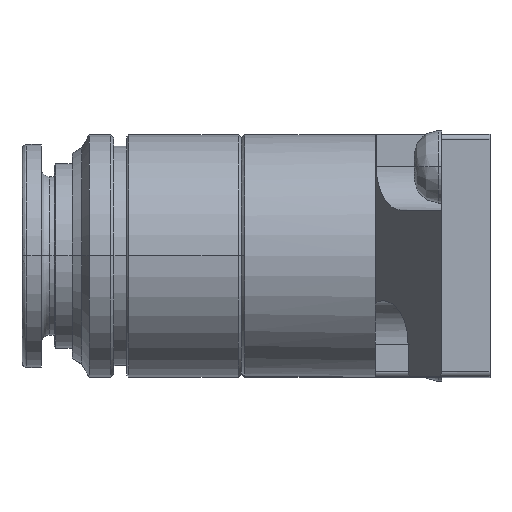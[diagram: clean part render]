
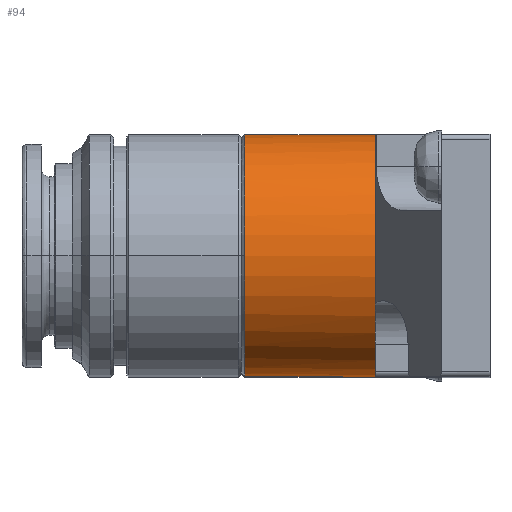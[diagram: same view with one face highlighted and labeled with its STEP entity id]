
A CAD part, top view. The second image highlights one B-rep face of the part: STEP entity #94.
In plain terms, the highlighted cylindrical face has radius 7.5 mm (diameter 15 mm), a partial arc.
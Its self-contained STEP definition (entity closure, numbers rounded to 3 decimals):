
#94=ADVANCED_FACE('',(#729),#728,.T.);
#728=CYLINDRICAL_SURFACE('',#1875,7.5);
#729=FACE_OUTER_BOUND('',#1876,.T.);
#1872=CARTESIAN_POINT('',(0.,-7.5,30.55));
#1873=DIRECTION('',(1.,0.,0.));
#1874=DIRECTION('',(0.,0.,-1.));
#1875=AXIS2_PLACEMENT_3D('',#1872,#1873,#1874);
#1876=EDGE_LOOP('',(#3010,#3011,#3012,#3013,#3014,#3015,#3016));
#3010=ORIENTED_EDGE('',*,*,#3505,.F.);
#3011=ORIENTED_EDGE('',*,*,#3471,.T.);
#3012=ORIENTED_EDGE('',*,*,#3477,.T.);
#3013=ORIENTED_EDGE('',*,*,#3475,.T.);
#3014=ORIENTED_EDGE('',*,*,#3494,.F.);
#3015=ORIENTED_EDGE('',*,*,#3535,.F.);
#3016=ORIENTED_EDGE('',*,*,#3536,.F.);
#3471=EDGE_CURVE('',#4370,#4135,#4398,.T.);
#3475=EDGE_CURVE('',#4319,#4419,#4426,.T.);
#3477=EDGE_CURVE('',#4135,#4319,#4438,.T.);
#3494=EDGE_CURVE('',#4549,#4419,#4556,.T.);
#3505=EDGE_CURVE('',#4370,#4627,#4628,.T.);
#3535=EDGE_CURVE('',#4834,#4549,#4835,.T.);
#3536=EDGE_CURVE('',#4627,#4834,#4841,.T.);
#4135=VERTEX_POINT('',#6057);
#4319=VERTEX_POINT('',#6164);
#4370=VERTEX_POINT('',#6194);
#4398=CIRCLE('',#6216,7.5);
#4419=VERTEX_POINT('',#6227);
#4426=CIRCLE('',#6235,7.5);
#4438=CIRCLE('',#6243,7.5);
#4549=VERTEX_POINT('',#6319);
#4556=LINE('',#6324,#6325);
#4627=VERTEX_POINT('',#6364);
#4628=LINE('',#6365,#6366);
#4834=VERTEX_POINT('',#6510);
#4835=CIRCLE('',#6514,7.5);
#4841=CIRCLE('',#6518,7.5);
#6057=CARTESIAN_POINT('',(-7.1,-15.,30.55));
#6164=CARTESIAN_POINT('',(-7.1,0.,30.55));
#6194=CARTESIAN_POINT('',(-7.1,-8.354,23.099));
#6213=CARTESIAN_POINT('',(-7.1,-7.5,30.55));
#6214=DIRECTION('',(-1.,0.,0.));
#6215=DIRECTION('',(0.,0.,-1.));
#6216=AXIS2_PLACEMENT_3D('',#6213,#6214,#6215);
#6227=CARTESIAN_POINT('',(-7.1,-6.646,23.099));
#6232=CARTESIAN_POINT('',(-7.1,-7.5,30.55));
#6233=DIRECTION('',(-1.,0.,0.));
#6234=DIRECTION('',(0.,0.,-1.));
#6235=AXIS2_PLACEMENT_3D('',#6232,#6233,#6234);
#6240=CARTESIAN_POINT('',(-7.1,-7.5,30.55));
#6241=DIRECTION('',(-1.,0.,0.));
#6242=DIRECTION('',(0.,0.,-1.));
#6243=AXIS2_PLACEMENT_3D('',#6240,#6241,#6242);
#6319=CARTESIAN_POINT('',(-15.2,-6.646,23.099));
#6324=CARTESIAN_POINT('',(-15.2,-6.646,23.099));
#6325=VECTOR('',#6326,8.1);
#6326=DIRECTION('',(1.,0.,0.));
#6364=CARTESIAN_POINT('',(-15.2,-8.354,23.099));
#6365=CARTESIAN_POINT('',(-7.1,-8.354,23.099));
#6366=VECTOR('',#6367,8.1);
#6367=DIRECTION('',(-1.,0.,0.));
#6510=CARTESIAN_POINT('',(-15.2,-7.5,38.05));
#6511=CARTESIAN_POINT('',(-15.2,-7.5,30.55));
#6512=DIRECTION('',(-1.,0.,0.));
#6513=DIRECTION('',(0.,0.,-1.));
#6514=AXIS2_PLACEMENT_3D('',#6511,#6512,#6513);
#6515=CARTESIAN_POINT('',(-15.2,-7.5,30.55));
#6516=DIRECTION('',(-1.,0.,0.));
#6517=DIRECTION('',(0.,0.,-1.));
#6518=AXIS2_PLACEMENT_3D('',#6515,#6516,#6517);
